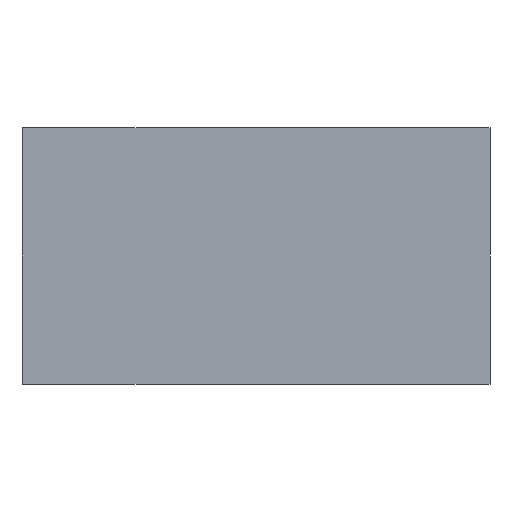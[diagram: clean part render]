
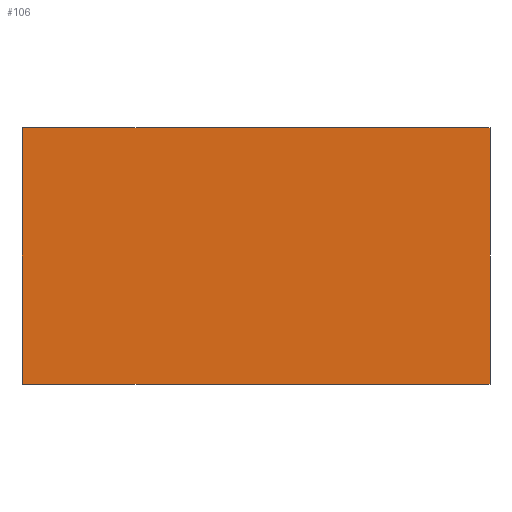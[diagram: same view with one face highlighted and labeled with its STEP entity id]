
A CAD part, front view. The second image highlights one B-rep face of the part: STEP entity #106.
In plain terms, the highlighted planar face has unit normal (0, -1, 0).
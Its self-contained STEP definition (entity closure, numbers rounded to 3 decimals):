
#69 = CARTESIAN_POINT ( 'NONE',  ( 0., 0., 10. ) ) ;
#106 = ADVANCED_FACE ( 'NONE', ( #1492 ), #992, .T. ) ;
#117 = VECTOR ( 'NONE', #152, 1000. ) ;
#152 = DIRECTION ( 'NONE',  ( -1., 0., 0. ) ) ;
#175 = DIRECTION ( 'NONE',  ( -1., 0., 0. ) ) ;
#190 = VERTEX_POINT ( 'NONE', #1329 ) ;
#256 = VERTEX_POINT ( 'NONE', #1465 ) ;
#286 = ORIENTED_EDGE ( 'NONE', *, *, #1347, .F. ) ;
#366 = DIRECTION ( 'NONE',  ( 0., 0., -1. ) ) ;
#425 = ORIENTED_EDGE ( 'NONE', *, *, #1467, .F. ) ;
#435 = EDGE_LOOP ( 'NONE', ( #425, #286, #959, #1553 ) ) ;
#602 = DIRECTION ( 'NONE',  ( 0., 0., -1. ) ) ;
#895 = VERTEX_POINT ( 'NONE', #1560 ) ;
#959 = ORIENTED_EDGE ( 'NONE', *, *, #1584, .T. ) ;
#974 = EDGE_CURVE ( 'NONE', #1407, #190, #1230, .T. ) ;
#992 = PLANE ( 'NONE',  #1623 ) ;
#1001 = CARTESIAN_POINT ( 'NONE',  ( 18.217, 0., 10. ) ) ;
#1108 = CARTESIAN_POINT ( 'NONE',  ( 0., 0., 10. ) ) ;
#1136 = LINE ( 'NONE', #1001, #1175 ) ;
#1142 = VECTOR ( 'NONE', #602, 1000. ) ;
#1175 = VECTOR ( 'NONE', #1619, 1000. ) ;
#1208 = LINE ( 'NONE', #69, #1359 ) ;
#1230 = LINE ( 'NONE', #1108, #1142 ) ;
#1272 = CARTESIAN_POINT ( 'NONE',  ( 0., 0., 0. ) ) ;
#1329 = CARTESIAN_POINT ( 'NONE',  ( 0., 0., 0. ) ) ;
#1347 = EDGE_CURVE ( 'NONE', #256, #895, #1136, .T. ) ;
#1359 = VECTOR ( 'NONE', #175, 1000. ) ;
#1360 = CARTESIAN_POINT ( 'NONE',  ( 0., 0., 10. ) ) ;
#1407 = VERTEX_POINT ( 'NONE', #1360 ) ;
#1408 = LINE ( 'NONE', #1272, #117 ) ;
#1465 = CARTESIAN_POINT ( 'NONE',  ( 18.217, 0., 10. ) ) ;
#1467 = EDGE_CURVE ( 'NONE', #895, #190, #1408, .T. ) ;
#1492 = FACE_OUTER_BOUND ( 'NONE', #435, .T. ) ;
#1501 = DIRECTION ( 'NONE',  ( 0., -1., 0. ) ) ;
#1509 = CARTESIAN_POINT ( 'NONE',  ( 0., 0., 10. ) ) ;
#1553 = ORIENTED_EDGE ( 'NONE', *, *, #974, .T. ) ;
#1560 = CARTESIAN_POINT ( 'NONE',  ( 18.217, 0., 0. ) ) ;
#1584 = EDGE_CURVE ( 'NONE', #256, #1407, #1208, .T. ) ;
#1619 = DIRECTION ( 'NONE',  ( 0., 0., -1. ) ) ;
#1623 = AXIS2_PLACEMENT_3D ( 'NONE', #1509, #1501, #366 ) ;
